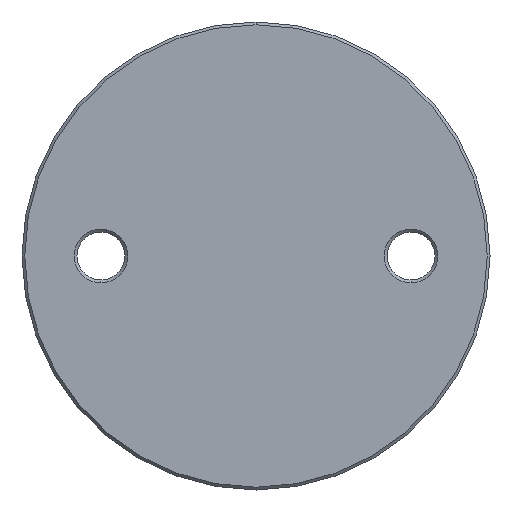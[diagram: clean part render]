
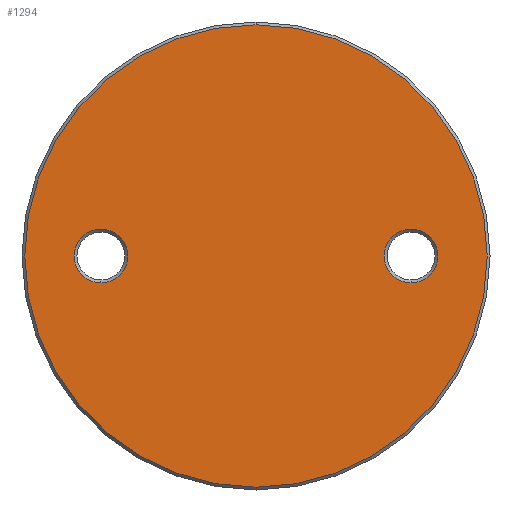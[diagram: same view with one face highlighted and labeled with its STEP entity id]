
A CAD part, front view. The second image highlights one B-rep face of the part: STEP entity #1294.
In plain terms, the highlighted planar face has unit normal (0, -1, 0).
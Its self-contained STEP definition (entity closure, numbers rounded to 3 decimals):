
#412 = EDGE_CURVE ( 'NONE', #671, #602, #6798, .T. ) ;
#441 = CARTESIAN_POINT ( 'NONE',  ( 0., -3., 0. ) ) ;
#577 = CARTESIAN_POINT ( 'NONE',  ( 0., -3., 41.5 ) ) ;
#602 = VERTEX_POINT ( 'NONE', #4844 ) ;
#620 = CARTESIAN_POINT ( 'NONE',  ( -27.5, -3., 0. ) ) ;
#671 = VERTEX_POINT ( 'NONE', #1741 ) ;
#1063 = CARTESIAN_POINT ( 'NONE',  ( 0., -3., 41. ) ) ;
#1200 = DIRECTION ( 'NONE',  ( 0., 0., -1. ) ) ;
#1294 = ADVANCED_FACE ( 'NONE', ( #2325, #5633, #2842 ), #4279, .T. ) ;
#1464 = CARTESIAN_POINT ( 'NONE',  ( -27.5, -3., 0. ) ) ;
#1467 = DIRECTION ( 'NONE',  ( 0., -1., 0. ) ) ;
#1501 = ORIENTED_EDGE ( 'NONE', *, *, #2930, .T. ) ;
#1573 = AXIS2_PLACEMENT_3D ( 'NONE', #5851, #3229, #1639 ) ;
#1618 = DIRECTION ( 'NONE',  ( 0., -1., 0. ) ) ;
#1639 = DIRECTION ( 'NONE',  ( 0., 0., -1. ) ) ;
#1685 = DIRECTION ( 'NONE',  ( 0., 1., 0. ) ) ;
#1741 = CARTESIAN_POINT ( 'NONE',  ( 27.5, -3., -4.75 ) ) ;
#1796 = DIRECTION ( 'NONE',  ( 0., -1., 0. ) ) ;
#2188 = CIRCLE ( 'NONE', #5402, 41. ) ;
#2325 = FACE_BOUND ( 'NONE', #4454, .T. ) ;
#2521 = DIRECTION ( 'NONE',  ( 0., 0., -1. ) ) ;
#2563 = CIRCLE ( 'NONE', #5864, 4.75 ) ;
#2607 = DIRECTION ( 'NONE',  ( 0., 1., 0. ) ) ;
#2709 = ORIENTED_EDGE ( 'NONE', *, *, #3152, .T. ) ;
#2842 = FACE_OUTER_BOUND ( 'NONE', #3106, .T. ) ;
#2850 = EDGE_LOOP ( 'NONE', ( #1501, #3936 ) ) ;
#2930 = EDGE_CURVE ( 'NONE', #5887, #3829, #3992, .T. ) ;
#3106 = EDGE_LOOP ( 'NONE', ( #3562, #5506 ) ) ;
#3113 = VERTEX_POINT ( 'NONE', #1063 ) ;
#3137 = CIRCLE ( 'NONE', #6279, 4.75 ) ;
#3152 = EDGE_CURVE ( 'NONE', #602, #671, #2563, .T. ) ;
#3229 = DIRECTION ( 'NONE',  ( 0., 1., 0. ) ) ;
#3298 = DIRECTION ( 'NONE',  ( 0., 1., 0. ) ) ;
#3562 = ORIENTED_EDGE ( 'NONE', *, *, #4390, .T. ) ;
#3580 = DIRECTION ( 'NONE',  ( 0., 0., -1. ) ) ;
#3821 = CARTESIAN_POINT ( 'NONE',  ( 27.5, -3., 0. ) ) ;
#3829 = VERTEX_POINT ( 'NONE', #3860 ) ;
#3860 = CARTESIAN_POINT ( 'NONE',  ( -27.5, -3., 4.75 ) ) ;
#3870 = DIRECTION ( 'NONE',  ( 0., 0., -1. ) ) ;
#3889 = DIRECTION ( 'NONE',  ( 0., 0., -1. ) ) ;
#3936 = ORIENTED_EDGE ( 'NONE', *, *, #6450, .T. ) ;
#3992 = CIRCLE ( 'NONE', #4601, 4.75 ) ;
#4279 = PLANE ( 'NONE',  #5790 ) ;
#4390 = EDGE_CURVE ( 'NONE', #3113, #5009, #5584, .T. ) ;
#4454 = EDGE_LOOP ( 'NONE', ( #4669, #2709 ) ) ;
#4601 = AXIS2_PLACEMENT_3D ( 'NONE', #1464, #2607, #2521 ) ;
#4669 = ORIENTED_EDGE ( 'NONE', *, *, #412, .T. ) ;
#4844 = CARTESIAN_POINT ( 'NONE',  ( 27.5, -3., 4.75 ) ) ;
#4967 = CARTESIAN_POINT ( 'NONE',  ( 0., -3., 0. ) ) ;
#5009 = VERTEX_POINT ( 'NONE', #6617 ) ;
#5054 = AXIS2_PLACEMENT_3D ( 'NONE', #441, #1467, #3580 ) ;
#5323 = DIRECTION ( 'NONE',  ( 0., 0., -1. ) ) ;
#5402 = AXIS2_PLACEMENT_3D ( 'NONE', #4967, #1796, #3889 ) ;
#5434 = EDGE_CURVE ( 'NONE', #5009, #3113, #2188, .T. ) ;
#5506 = ORIENTED_EDGE ( 'NONE', *, *, #5434, .T. ) ;
#5584 = CIRCLE ( 'NONE', #5054, 41. ) ;
#5633 = FACE_BOUND ( 'NONE', #2850, .T. ) ;
#5790 = AXIS2_PLACEMENT_3D ( 'NONE', #577, #1618, #5323 ) ;
#5851 = CARTESIAN_POINT ( 'NONE',  ( 27.5, -3., 0. ) ) ;
#5864 = AXIS2_PLACEMENT_3D ( 'NONE', #3821, #3298, #3870 ) ;
#5887 = VERTEX_POINT ( 'NONE', #5920 ) ;
#5920 = CARTESIAN_POINT ( 'NONE',  ( -27.5, -3., -4.75 ) ) ;
#6279 = AXIS2_PLACEMENT_3D ( 'NONE', #620, #1685, #1200 ) ;
#6450 = EDGE_CURVE ( 'NONE', #3829, #5887, #3137, .T. ) ;
#6617 = CARTESIAN_POINT ( 'NONE',  ( 0., -3., -41. ) ) ;
#6798 = CIRCLE ( 'NONE', #1573, 4.75 ) ;
